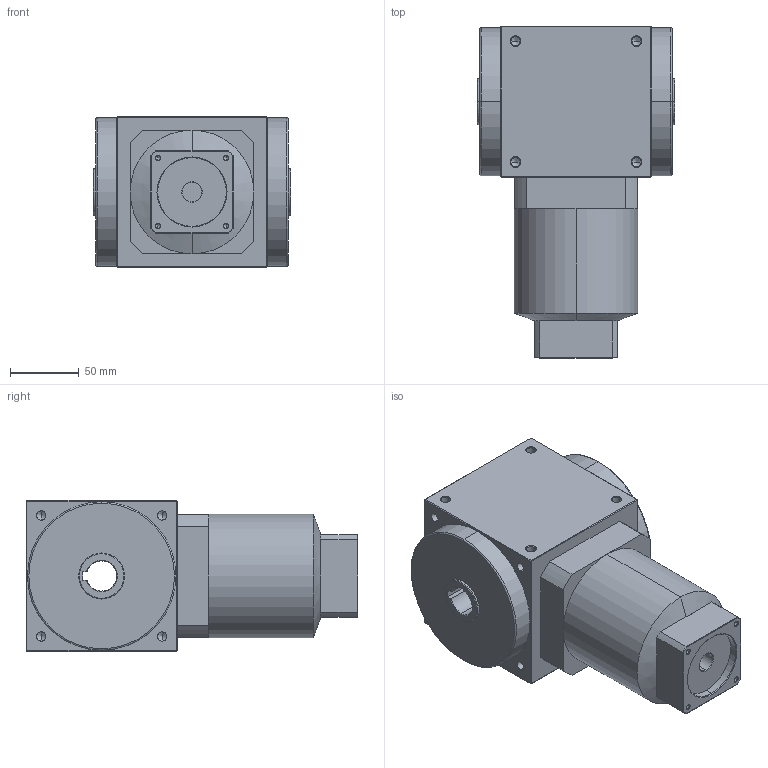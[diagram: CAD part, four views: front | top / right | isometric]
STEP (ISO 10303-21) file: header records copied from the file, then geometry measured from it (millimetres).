
FILE_DESCRIPTION (( 'STEP AP214' ), '1' );
FILE_NAME ('AT110-FH-L2 --14-50-70-M4.STEP', '2020-08-03T09:55:32', ( 'User' ), ( 'Far123' ), 'SwSTEP 2.0', 'SolidWorks 2015', '' );
FILE_SCHEMA (( 'AUTOMOTIVE_DESIGN' ));
Length unit declared in the file: millimetre
Products named in the file (1): AT110-FH-L2 --14-50-70-M4
Bounding box: 144 x 241.5 x 110 mm (x, y, z)
Volume: 2309649.3 mm3; surface area: 138667.6 mm2
Topology: 1 solids, 1 shells, 257 faces, 650 edges, 354 vertices
Faces by surface type: cylinder 113, cone 84, plane 56, torus 4
Entity records: 8260 total; most frequent: CARTESIAN_POINT 1586, ORIENTED_EDGE 1204, DIRECTION 1188, EDGE_CURVE 602, AXIS2_PLACEMENT_3D 452, VERTEX_POINT 354, EDGE_LOOP 290, VECTOR 284
